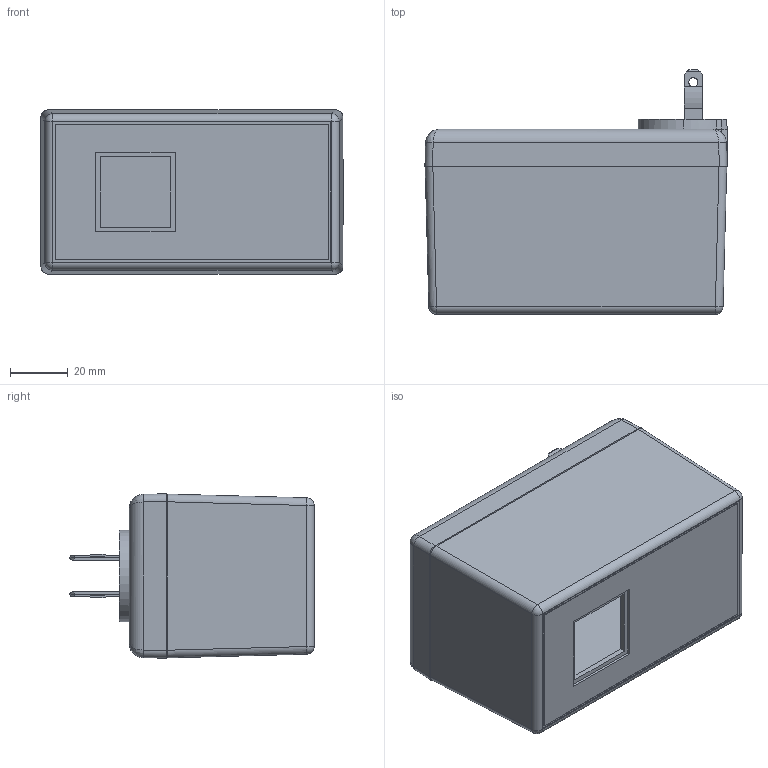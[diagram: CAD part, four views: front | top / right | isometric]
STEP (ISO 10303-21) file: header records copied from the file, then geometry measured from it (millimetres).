
FILE_DESCRIPTION (( 'STEP AP214' ), '1' );
FILE_NAME ('PM2425T12XNT.STEP', '2010-07-15T14:20:08', ( '' ), ( '' ), 'SwSTEP 2.0', 'SolidWorks 2010', '' );
FILE_SCHEMA (( 'AUTOMOTIVE_DESIGN' ));
Length unit declared in the file: inch
Products named in the file (8): TS-2420B AND PM2420_PM2420T1; B2405 ASS''Y_B24052XNT; MPB2405_MPB24052NT; BLADES; WELD DISC-PS-BK; SCREWS-HL1-BR; B2405-PCB; PM2425T12XNT
Assembly tree (11 placements, depth 3):
  PM2425T12XNT
    SCREWS-HL1-BR  x4
    TS-2420B AND PM2420_PM2420T1
    B2405 ASS''Y_B24052XNT
      WELD DISC-PS-BK
      BLADES  x2
      MPB2405_MPB24052NT
    B2405-PCB
Bounding box: 104.6 x 84.55 x 56.95 mm (x, y, z)
Volume: 87516.1 mm3; surface area: 81266.5 mm2
Topology: 10 solids, 10 shells, 888 faces, 2475 edges, 1616 vertices
Faces by surface type: cylinder 486, plane 281, cone 77, bspline 28, sphere 12, torus 4
Entity records: 18472 total; most frequent: CARTESIAN_POINT 6145, ORIENTED_EDGE 2664, DIRECTION 2368, EDGE_CURVE 1332, VERTEX_POINT 866, AXIS2_PLACEMENT_3D 828, VECTOR 712, LINE 712
